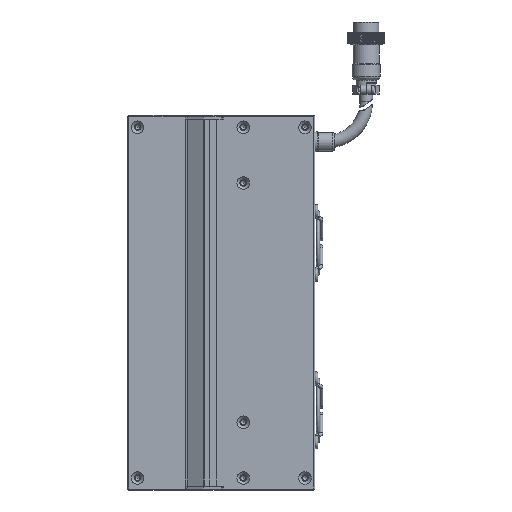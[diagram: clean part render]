
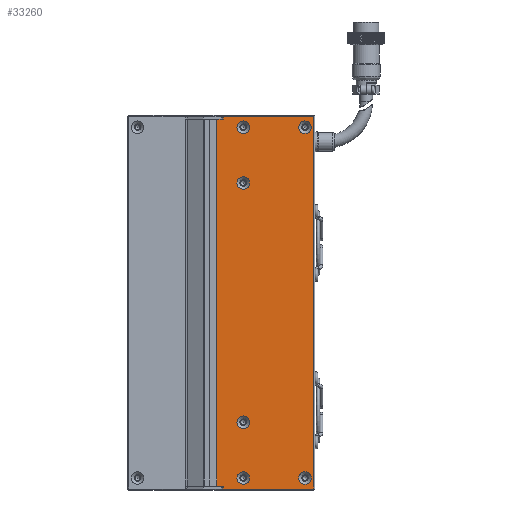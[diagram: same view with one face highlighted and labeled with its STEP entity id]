
A CAD part, left-side view. The second image highlights one B-rep face of the part: STEP entity #33260.
In plain terms, the highlighted planar face has unit normal (-1, 0, 0).
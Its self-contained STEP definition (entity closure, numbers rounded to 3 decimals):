
#735 = VECTOR ( 'NONE', #62431, 1000. ) ;
#1295 = CARTESIAN_POINT ( 'NONE',  ( -24.998, -23.25, 92. ) ) ;
#5336 = CARTESIAN_POINT ( 'NONE',  ( -24.998, -26.5, -85. ) ) ;
#7452 = CARTESIAN_POINT ( 'NONE',  ( -24.998, -72., 92. ) ) ;
#8229 = VECTOR ( 'NONE', #114934, 1000. ) ;
#8432 = FACE_OUTER_BOUND ( 'NONE', #103942, .T. ) ;
#10143 = CARTESIAN_POINT ( 'NONE',  ( -24.998, -72., -93.5 ) ) ;
#11145 = CARTESIAN_POINT ( 'NONE',  ( -24.998, -26.5, 93.5 ) ) ;
#11261 = EDGE_LOOP ( 'NONE', ( #121851 ) ) ;
#14966 = VERTEX_POINT ( 'NONE', #11145 ) ;
#15113 = CARTESIAN_POINT ( 'NONE',  ( -24.998, -23.25, -92. ) ) ;
#15274 = VERTEX_POINT ( 'NONE', #27697 ) ;
#16380 = DIRECTION ( 'NONE',  ( 0., 0., -1. ) ) ;
#20026 = EDGE_LOOP ( 'NONE', ( #76258 ) ) ;
#20283 = CARTESIAN_POINT ( 'NONE',  ( -24.998, -26.5, 92. ) ) ;
#20576 = FACE_BOUND ( 'NONE', #49431, .T. ) ;
#21462 = VERTEX_POINT ( 'NONE', #121628 ) ;
#22015 = FACE_BOUND ( 'NONE', #94362, .T. ) ;
#22431 = CARTESIAN_POINT ( 'NONE',  ( -24.998, -72.5, -93.5 ) ) ;
#23073 = AXIS2_PLACEMENT_3D ( 'NONE', #57335, #75877, #28250 ) ;
#23132 = DIRECTION ( 'NONE',  ( 0., 0., -1. ) ) ;
#24099 = ORIENTED_EDGE ( 'NONE', *, *, #102084, .F. ) ;
#25163 = CARTESIAN_POINT ( 'NONE',  ( -24.998, -36.5, -88. ) ) ;
#25990 = CARTESIAN_POINT ( 'NONE',  ( -24.998, -36.5, 63.15 ) ) ;
#26112 = DIRECTION ( 'NONE',  ( 1., 0., 0. ) ) ;
#26215 = EDGE_CURVE ( 'NONE', #123507, #111951, #106908, .T. ) ;
#27697 = CARTESIAN_POINT ( 'NONE',  ( -24.998, -67.5, 91.15 ) ) ;
#28250 = DIRECTION ( 'NONE',  ( 0., 0., 1. ) ) ;
#31135 = FACE_BOUND ( 'NONE', #20026, .T. ) ;
#31476 = ORIENTED_EDGE ( 'NONE', *, *, #40773, .T. ) ;
#33260 = ADVANCED_FACE ( 'NONE', ( #22015, #115501, #20576, #112450, #37172, #31135, #8432 ), #53968, .F. ) ;
#35186 = CARTESIAN_POINT ( 'NONE',  ( -24.998, -72.5, -92. ) ) ;
#37172 = FACE_BOUND ( 'NONE', #11261, .T. ) ;
#38552 = CIRCLE ( 'NONE', #79389, 3.15 ) ;
#40773 = EDGE_CURVE ( 'NONE', #67418, #103859, #61076, .T. ) ;
#41076 = CIRCLE ( 'NONE', #109059, 3.15 ) ;
#42401 = VECTOR ( 'NONE', #63486, 1000. ) ;
#43113 = CARTESIAN_POINT ( 'NONE',  ( -24.998, -36.5, -60. ) ) ;
#44305 = CARTESIAN_POINT ( 'NONE',  ( -24.998, -36.5, 88. ) ) ;
#44721 = CIRCLE ( 'NONE', #23073, 3.15 ) ;
#46909 = LINE ( 'NONE', #118849, #95143 ) ;
#48789 = EDGE_CURVE ( 'NONE', #120783, #67418, #115923, .T. ) ;
#49115 = ORIENTED_EDGE ( 'NONE', *, *, #48789, .T. ) ;
#49431 = EDGE_LOOP ( 'NONE', ( #103469 ) ) ;
#51120 = DIRECTION ( 'NONE',  ( 0., -1., 0. ) ) ;
#52395 = EDGE_CURVE ( 'NONE', #80274, #80274, #44721, .T. ) ;
#52823 = DIRECTION ( 'NONE',  ( -1., 0., 0. ) ) ;
#53968 = PLANE ( 'NONE',  #55117 ) ;
#54268 = DIRECTION ( 'NONE',  ( -1., 0., 0. ) ) ;
#55089 = LINE ( 'NONE', #61597, #735 ) ;
#55117 = AXIS2_PLACEMENT_3D ( 'NONE', #63695, #26112, #16380 ) ;
#55813 = VERTEX_POINT ( 'NONE', #75032 ) ;
#55945 = CARTESIAN_POINT ( 'NONE',  ( -24.998, -67.5, -84.85 ) ) ;
#57335 = CARTESIAN_POINT ( 'NONE',  ( -24.998, -36.5, 60. ) ) ;
#58248 = CARTESIAN_POINT ( 'NONE',  ( -24.998, -26.5, 85. ) ) ;
#59390 = DIRECTION ( 'NONE',  ( -1., 0., 0. ) ) ;
#61053 = DIRECTION ( 'NONE',  ( 0., 0., 1. ) ) ;
#61076 = LINE ( 'NONE', #7452, #8229 ) ;
#61208 = DIRECTION ( 'NONE',  ( 0., 0., 1. ) ) ;
#61597 = CARTESIAN_POINT ( 'NONE',  ( -24.998, -72.5, 93.5 ) ) ;
#61698 = VECTOR ( 'NONE', #51120, 1000. ) ;
#62109 = ORIENTED_EDGE ( 'NONE', *, *, #97849, .F. ) ;
#62191 = ORIENTED_EDGE ( 'NONE', *, *, #82694, .F. ) ;
#62370 = EDGE_LOOP ( 'NONE', ( #62109 ) ) ;
#62431 = DIRECTION ( 'NONE',  ( 0., 1., 0. ) ) ;
#62812 = EDGE_CURVE ( 'NONE', #55813, #120783, #67368, .T. ) ;
#63486 = DIRECTION ( 'NONE',  ( 0., -1., 0. ) ) ;
#63695 = CARTESIAN_POINT ( 'NONE',  ( -24.998, -72.5, 92. ) ) ;
#63835 = ORIENTED_EDGE ( 'NONE', *, *, #26215, .F. ) ;
#65049 = EDGE_CURVE ( 'NONE', #21462, #21462, #38552, .T. ) ;
#65160 = CIRCLE ( 'NONE', #122347, 3.15 ) ;
#65168 = VERTEX_POINT ( 'NONE', #55945 ) ;
#66163 = CIRCLE ( 'NONE', #88471, 3.15 ) ;
#67270 = DIRECTION ( 'NONE',  ( 0., 0., 1. ) ) ;
#67368 = LINE ( 'NONE', #5336, #115565 ) ;
#67418 = VERTEX_POINT ( 'NONE', #10143 ) ;
#67688 = DIRECTION ( 'NONE',  ( -1., 0., 0. ) ) ;
#67823 = VERTEX_POINT ( 'NONE', #15113 ) ;
#67988 = ORIENTED_EDGE ( 'NONE', *, *, #88250, .T. ) ;
#68006 = CARTESIAN_POINT ( 'NONE',  ( -24.998, -72., 93.5 ) ) ;
#75032 = CARTESIAN_POINT ( 'NONE',  ( -24.998, -26.5, -92. ) ) ;
#75559 = CIRCLE ( 'NONE', #117218, 3.15 ) ;
#75644 = EDGE_CURVE ( 'NONE', #65168, #65168, #41076, .T. ) ;
#75669 = VERTEX_POINT ( 'NONE', #84208 ) ;
#75877 = DIRECTION ( 'NONE',  ( -1., 0., 0. ) ) ;
#76258 = ORIENTED_EDGE ( 'NONE', *, *, #52395, .F. ) ;
#78132 = CARTESIAN_POINT ( 'NONE',  ( -24.998, -26.5, -93.5 ) ) ;
#79389 = AXIS2_PLACEMENT_3D ( 'NONE', #44305, #102003, #110849 ) ;
#80002 = CARTESIAN_POINT ( 'NONE',  ( -24.998, -67.5, 88. ) ) ;
#80274 = VERTEX_POINT ( 'NONE', #25990 ) ;
#82093 = CARTESIAN_POINT ( 'NONE',  ( -24.998, -72.5, 92. ) ) ;
#82694 = EDGE_CURVE ( 'NONE', #75669, #75669, #66163, .T. ) ;
#83155 = ORIENTED_EDGE ( 'NONE', *, *, #62812, .T. ) ;
#83420 = ORIENTED_EDGE ( 'NONE', *, *, #113251, .T. ) ;
#84208 = CARTESIAN_POINT ( 'NONE',  ( -24.998, -36.5, -84.85 ) ) ;
#84331 = VECTOR ( 'NONE', #111510, 1000. ) ;
#85022 = CARTESIAN_POINT ( 'NONE',  ( -24.998, -36.5, -56.85 ) ) ;
#86206 = LINE ( 'NONE', #35186, #42401 ) ;
#88250 = EDGE_CURVE ( 'NONE', #103859, #14966, #55089, .T. ) ;
#88471 = AXIS2_PLACEMENT_3D ( 'NONE', #25163, #54268, #112788 ) ;
#94362 = EDGE_LOOP ( 'NONE', ( #107609 ) ) ;
#95143 = VECTOR ( 'NONE', #61208, 1000. ) ;
#95319 = DIRECTION ( 'NONE',  ( 0., 0., -1. ) ) ;
#96745 = CARTESIAN_POINT ( 'NONE',  ( -24.998, -67.5, -88. ) ) ;
#97849 = EDGE_CURVE ( 'NONE', #15274, #15274, #65160, .T. ) ;
#98924 = EDGE_CURVE ( 'NONE', #67823, #55813, #86206, .T. ) ;
#100409 = DIRECTION ( 'NONE',  ( 0., 0., 1. ) ) ;
#101882 = EDGE_CURVE ( 'NONE', #105736, #105736, #75559, .T. ) ;
#102003 = DIRECTION ( 'NONE',  ( -1., 0., 0. ) ) ;
#102084 = EDGE_CURVE ( 'NONE', #67823, #123507, #46909, .T. ) ;
#103469 = ORIENTED_EDGE ( 'NONE', *, *, #65049, .F. ) ;
#103859 = VERTEX_POINT ( 'NONE', #68006 ) ;
#103942 = EDGE_LOOP ( 'NONE', ( #122746, #83155, #49115, #31476, #67988, #83420, #63835, #24099 ) ) ;
#105736 = VERTEX_POINT ( 'NONE', #85022 ) ;
#106908 = LINE ( 'NONE', #82093, #84331 ) ;
#107081 = VECTOR ( 'NONE', #95319, 1000. ) ;
#107609 = ORIENTED_EDGE ( 'NONE', *, *, #75644, .F. ) ;
#109059 = AXIS2_PLACEMENT_3D ( 'NONE', #96745, #67688, #67270 ) ;
#110849 = DIRECTION ( 'NONE',  ( 0., 0., 1. ) ) ;
#111445 = EDGE_LOOP ( 'NONE', ( #62191 ) ) ;
#111510 = DIRECTION ( 'NONE',  ( 0., -1., 0. ) ) ;
#111951 = VERTEX_POINT ( 'NONE', #20283 ) ;
#112450 = FACE_BOUND ( 'NONE', #62370, .T. ) ;
#112788 = DIRECTION ( 'NONE',  ( 0., 0., 1. ) ) ;
#113251 = EDGE_CURVE ( 'NONE', #14966, #111951, #123574, .T. ) ;
#114934 = DIRECTION ( 'NONE',  ( 0., 0., 1. ) ) ;
#115501 = FACE_BOUND ( 'NONE', #111445, .T. ) ;
#115565 = VECTOR ( 'NONE', #23132, 1000. ) ;
#115923 = LINE ( 'NONE', #22431, #61698 ) ;
#117218 = AXIS2_PLACEMENT_3D ( 'NONE', #43113, #52823, #100409 ) ;
#118849 = CARTESIAN_POINT ( 'NONE',  ( -24.998, -23.25, -92. ) ) ;
#120783 = VERTEX_POINT ( 'NONE', #78132 ) ;
#121628 = CARTESIAN_POINT ( 'NONE',  ( -24.998, -36.5, 91.15 ) ) ;
#121851 = ORIENTED_EDGE ( 'NONE', *, *, #101882, .F. ) ;
#122347 = AXIS2_PLACEMENT_3D ( 'NONE', #80002, #59390, #61053 ) ;
#122746 = ORIENTED_EDGE ( 'NONE', *, *, #98924, .T. ) ;
#123507 = VERTEX_POINT ( 'NONE', #1295 ) ;
#123574 = LINE ( 'NONE', #58248, #107081 ) ;
